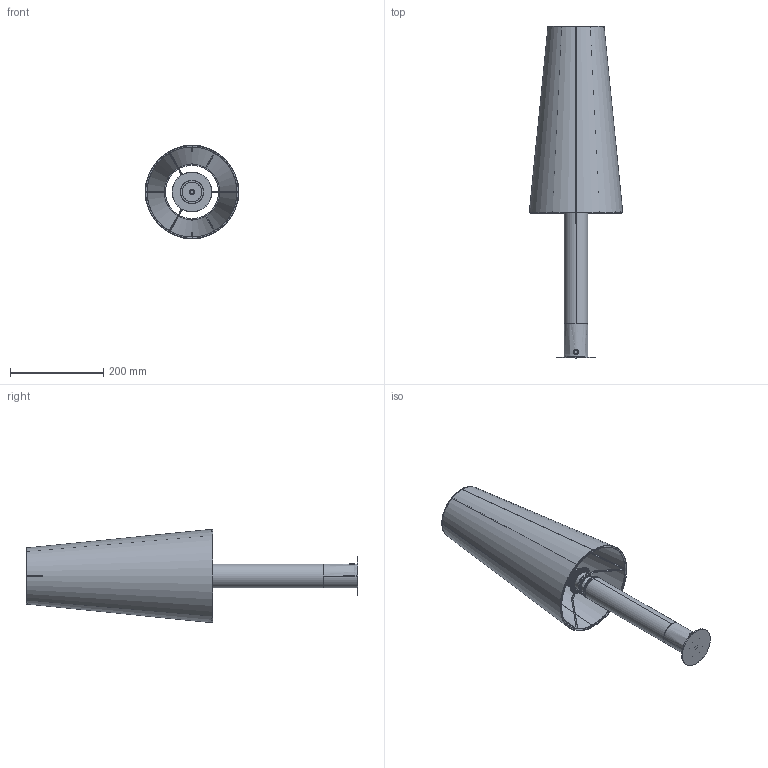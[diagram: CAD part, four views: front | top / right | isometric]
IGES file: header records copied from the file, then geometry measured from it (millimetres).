
Start section: SolidWorks IGES file using analytic representation for surfaces
Global section: file name: C:\SANTACOLE_PDM\Proyectos Catálogo\PROD-P13-027 -- BÁSICA\6_Técnico comercial\3D WEB\Basica M1.IGS; native system: SolidWorks 2019; preprocessor: SolidWorks 2019; author: ana.pascual; date: 200401.104306; units: millimetre
Bounding box: 200 x 710.2 x 200 mm (x, y, z)
Surface area: 570075.1 mm2 (no closed solid volume)
Topology: 0 solids, 0 shells, 618 faces, 8530 edges, 8528 vertices
Faces by surface type: revolution 337, bspline 281
